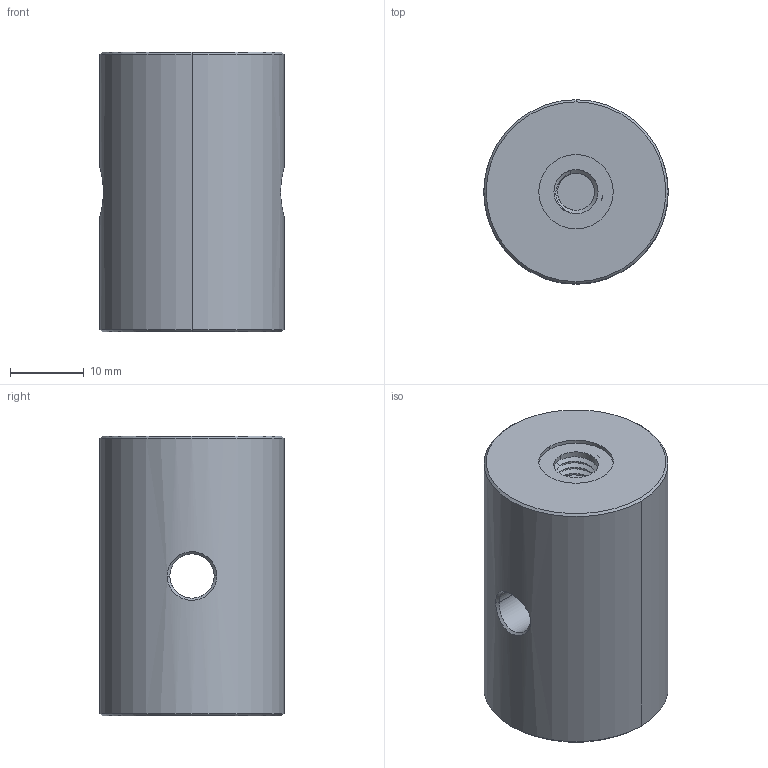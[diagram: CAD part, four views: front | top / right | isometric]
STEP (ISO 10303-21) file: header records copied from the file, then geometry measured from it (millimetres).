
FILE_DESCRIPTION((''),'2;1');
FILE_NAME('PFC-38-S2','2022-10-10T',('daizh'),(''),'CREO PARAMETRIC BY PTC INC, 2018360','CREO PARAMETRIC BY PTC INC, 2018360','');
FILE_SCHEMA(('CONFIG_CONTROL_DESIGN'));
Length unit declared in the file: millimetre
Products named in the file (1): PFC-38-S2
Bounding box: 25 x 25 x 38 mm (x, y, z)
Volume: 17589.1 mm3; surface area: 4678.3 mm2
Topology: 1 solids, 1 shells, 78 faces, 198 edges, 127 vertices
Faces by surface type: cylinder 43, bspline 24, plane 7, cone 4
Entity records: 5829 total; most frequent: CARTESIAN_POINT 4166, ORIENTED_EDGE 396, DIRECTION 225, EDGE_CURVE 198, VERTEX_POINT 127, B_SPLINE_CURVE_WITH_KNOTS 105, EDGE_LOOP 85, AXIS2_PLACEMENT_3D 78
